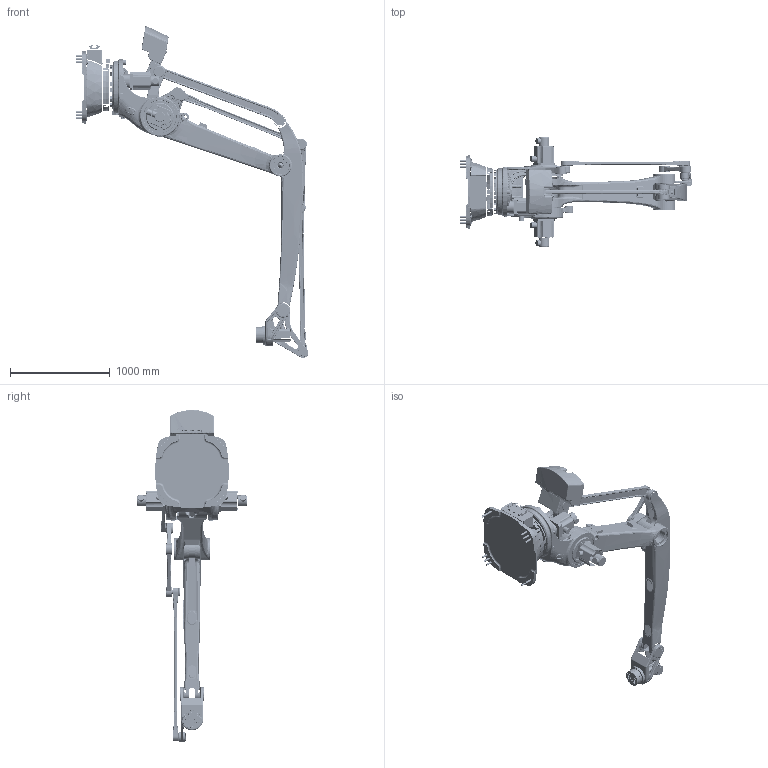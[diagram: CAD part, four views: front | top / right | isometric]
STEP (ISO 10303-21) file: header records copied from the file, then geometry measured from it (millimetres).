
FILE_DESCRIPTION((''),'2;1');
FILE_NAME('LB3100-G-4_ASM','2020-09-04T09:57:48',('Z'),(''),'CREO PARAMETRIC BY PTC INC, 2019224','CREO PARAMETRIC BY PTC INC, 2019224','');
FILE_SCHEMA(('CONFIG_CONTROL_DESIGN'));
Products named in the file (24): 1300001_1_1_1; 004_ASM_2_ASM_1_ASM_1_ASM; LB3100-300_1_1_1; 121_ASM_1_ASM_1_ASM; 0049_ASM_2_ASM_1_1; 0051_2_2_1; LB3100-2000_5_1_1; 00_ASM_2_ASM_1_ASM_1_ASM; LOGO_1_1_1; LB310000_ASM_2_ASM_1_ASM_1_ASM; LB3100000_1-772209_1_1; LB31000009_1_1_1; 002_ASM_1_ASM_1_ASM_1_ASM; LB3100001_4_1_1; 0068_ASM_2_ASM_1_ASM_1_ASM; LB31000013_5_2_1; 0028_ASM_2_ASM_1_ASM_1_ASM; LB310010002_1_1_1; 0070_1_1_1; LB310010001_ASM_1_ASM_1_ASM_1_ASM; LB3100-G-4_ASM_3_ASM_1_ASM_1_ASM; LB3100000_1-656887_1_1; LB3100-G-4_ASM_1_ASM; LB3100-G-4_ASM
Assembly tree (23 placements, depth 6):
  LB3100-G-4_ASM
    LB3100-G-4_ASM_1_ASM
      LB3100-G-4_ASM_3_ASM_1_ASM_1_ASM
        004_ASM_2_ASM_1_ASM_1_ASM
          1300001_1_1_1
        00_ASM_2_ASM_1_ASM_1_ASM
          121_ASM_1_ASM_1_ASM
            LB3100-300_1_1_1
          0049_ASM_2_ASM_1_1
          0051_2_2_1
          LB3100-2000_5_1_1
        LB310000_ASM_2_ASM_1_ASM_1_ASM
          LOGO_1_1_1
        002_ASM_1_ASM_1_ASM_1_ASM
          LB3100000_1-772209_1_1
          LB31000009_1_1_1
        0068_ASM_2_ASM_1_ASM_1_ASM
          LB3100001_4_1_1
        0028_ASM_2_ASM_1_ASM_1_ASM
          LB31000013_5_2_1
        LB310010001_ASM_1_ASM_1_ASM_1_ASM
          LB310010002_1_1_1
          0070_1_1_1
      LB3100000_1-656887_1_1
Bounding box: 2329.64 x 1097 x 3321.57 mm (x, y, z)
Surface area: 15414779.8 mm2 (no closed solid volume)
Topology: 0 solids, 418 shells, 6016 faces, 18126 edges, 12312 vertices
Faces by surface type: cylinder 2158, bspline 1432, plane 1040, torus 742, cone 486, extrusion 68, sphere 51, revolution 39
Entity records: 385591 total; most frequent: CARTESIAN_POINT 237851, ORIENTED_EDGE 31207, DIRECTION 27083, EDGE_CURVE 17784, VERTEX_POINT 12310, AXIS2_PLACEMENT_3D 11318, EDGE_LOOP 6903, B_SPLINE_CURVE_WITH_KNOTS 6777
